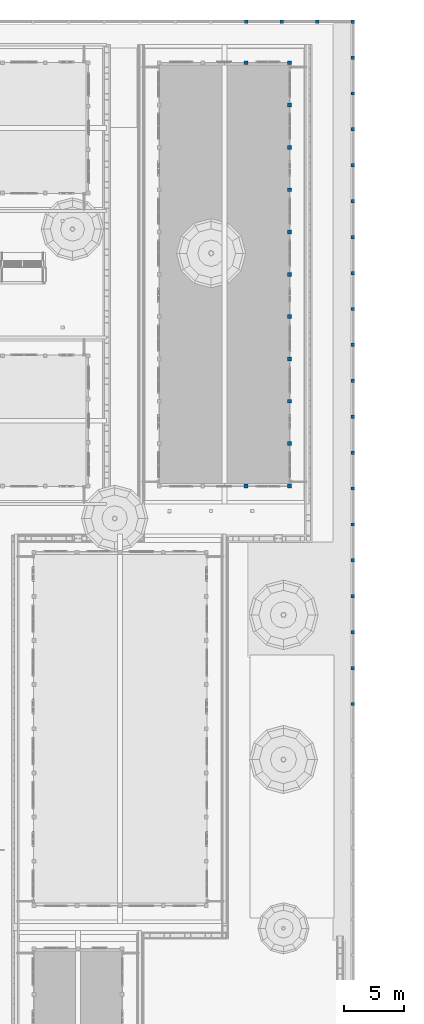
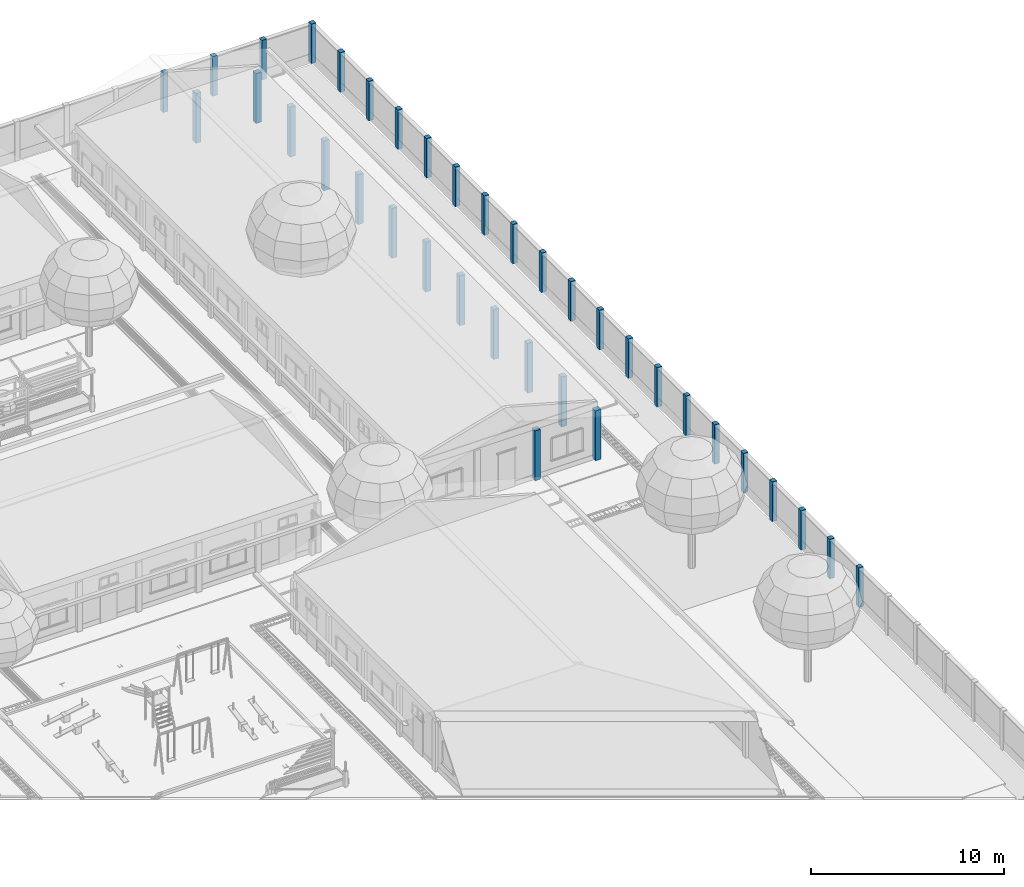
# One storey, part 12 of 166: 39 columns.
"""IFC2X3 building model written with IfcOpenShell, lengths in metres."""

from ifc_helpers import new_model, si_unit, origin, origin_with_axes, place, context, subcontext, project, spatial, faceted_brep, element, save


model = new_model("IFC2X3")

# Units and contexts
model_context = context("Model", 3, precision=1e-05, world=origin_with_axes())
body_context = subcontext(model_context, "Body", "Model", "MODEL_VIEW")
ifc_project = project(units=[si_unit("LENGTHUNIT", "METRE"), si_unit("AREAUNIT", "SQUARE_METRE"), si_unit("VOLUMEUNIT", "CUBIC_METRE"), si_unit("PLANEANGLEUNIT", "RADIAN")], contexts=[model_context])

# Site, building, storey
site_placement = place(None, origin_with_axes())
site = spatial("IfcSite", under=ifc_project, at=site_placement, Name="Predio Los Mangos - Morales, San Martín", CompositionType="ELEMENT")
building_placement = place(site_placement, origin())
building = spatial("IfcBuilding", under=site, at=building_placement, Name="Hogar de Refugio Temporal", CompositionType="ELEMENT")
storey_placement = place(building_placement, origin())
storey = spatial("IfcBuildingStorey", under=building, at=storey_placement, Name="NIVEL 1 (NPT +0.00)", CompositionType="ELEMENT", Elevation=0.0)

# Columns
column_1_placement = place(storey_placement, origin())
element("IfcColumn", 1, at=column_1_placement, inside=storey, Name="E-07_col", ObjectType="Columna", context=body_context, shape_type="Brep", body=[
    faceted_brep([(62.74, 92.54, 0.15), (62.74, 92.86, 0.15), (63.06, 92.86, 0.15), (63.06, 92.54, 0.15), (62.74, 92.54, 3.3), (63.06, 92.54, 3.3), (63.06, 92.86, 3.3), (62.74, 92.86, 3.3)], [[[0, 1, 2, 3]], [[4, 5, 6, 7]], [[0, 3, 5, 4]], [[3, 2, 6, 5]], [[2, 1, 7, 6]], [[1, 0, 4, 7]]]),
])
column_2_placement = place(storey_placement, origin())
element("IfcColumn", 2, at=column_2_placement, inside=storey, Name="E-07_col", ObjectType="Columna", context=body_context, shape_type="Brep", body=[
    faceted_brep([(66.34, 92.54, 0.15), (66.34, 92.86, 0.15), (66.66, 92.86, 0.15), (66.66, 92.54, 0.15), (66.34, 92.54, 3.3), (66.66, 92.54, 3.3), (66.66, 92.86, 3.3), (66.34, 92.86, 3.3)], [[[0, 1, 2, 3]], [[4, 5, 6, 7]], [[0, 3, 5, 4]], [[3, 2, 6, 5]], [[2, 1, 7, 6]], [[1, 0, 4, 7]]]),
])
column_3_placement = place(storey_placement, origin())
element("IfcColumn", 3, at=column_3_placement, inside=storey, Name="E-07_col", ObjectType="Columna", context=body_context, shape_type="Brep", body=[
    faceted_brep([(62.74, 127.64, 0.15), (62.74, 127.96, 0.15), (63.06, 127.96, 0.15), (63.06, 127.64, 0.15), (62.74, 127.64, 3.3), (63.06, 127.64, 3.3), (63.06, 127.96, 3.3), (62.74, 127.96, 3.3)], [[[0, 1, 2, 3]], [[4, 5, 6, 7]], [[0, 3, 5, 4]], [[3, 2, 6, 5]], [[2, 1, 7, 6]], [[1, 0, 4, 7]]]),
])
column_4_placement = place(storey_placement, origin())
element("IfcColumn", 4, at=column_4_placement, inside=storey, Name="E-07_col", ObjectType="Columna", context=body_context, shape_type="Brep", body=[
    faceted_brep([(66.34, 127.64, 0.15), (66.34, 127.96, 0.15), (66.66, 127.96, 0.15), (66.66, 127.64, 0.15), (66.34, 127.64, 3.3), (66.66, 127.64, 3.3), (66.66, 127.96, 3.3), (66.34, 127.96, 3.3)], [[[0, 1, 2, 3]], [[4, 5, 6, 7]], [[0, 3, 5, 4]], [[3, 2, 6, 5]], [[2, 1, 7, 6]], [[1, 0, 4, 7]]]),
])
column_5_placement = place(storey_placement, origin())
element("IfcColumn", 5, at=column_5_placement, inside=storey, Name="E-07_col", ObjectType="Columna", context=body_context, shape_type="Brep", body=[
    faceted_brep([(66.34, 92.54, 0.15), (66.34, 92.86, 0.15), (66.66, 92.86, 0.15), (66.66, 92.54, 0.15), (66.34, 92.54, 3.3), (66.66, 92.54, 3.3), (66.66, 92.86, 3.3), (66.34, 92.86, 3.3)], [[[0, 1, 2, 3]], [[4, 5, 6, 7]], [[0, 3, 5, 4]], [[3, 2, 6, 5]], [[2, 1, 7, 6]], [[1, 0, 4, 7]]]),
])
column_6_placement = place(storey_placement, origin())
element("IfcColumn", 6, at=column_6_placement, inside=storey, Name="E-07_col", ObjectType="Columna", context=body_context, shape_type="Brep", body=[
    faceted_brep([(66.34, 96.05, 0.15), (66.34, 96.37, 0.15), (66.66, 96.37, 0.15), (66.66, 96.05, 0.15), (66.34, 96.05, 3.3), (66.66, 96.05, 3.3), (66.66, 96.37, 3.3), (66.34, 96.37, 3.3)], [[[0, 1, 2, 3]], [[4, 5, 6, 7]], [[0, 3, 5, 4]], [[3, 2, 6, 5]], [[2, 1, 7, 6]], [[1, 0, 4, 7]]]),
])
column_7_placement = place(storey_placement, origin())
element("IfcColumn", 7, at=column_7_placement, inside=storey, Name="E-07_col", ObjectType="Columna", context=body_context, shape_type="Brep", body=[
    faceted_brep([(66.34, 99.56, 0.15), (66.34, 99.88, 0.15), (66.66, 99.88, 0.15), (66.66, 99.56, 0.15), (66.34, 99.56, 3.3), (66.66, 99.56, 3.3), (66.66, 99.88, 3.3), (66.34, 99.88, 3.3)], [[[0, 1, 2, 3]], [[4, 5, 6, 7]], [[0, 3, 5, 4]], [[3, 2, 6, 5]], [[2, 1, 7, 6]], [[1, 0, 4, 7]]]),
])
column_8_placement = place(storey_placement, origin())
element("IfcColumn", 8, at=column_8_placement, inside=storey, Name="E-07_col", ObjectType="Columna", context=body_context, shape_type="Brep", body=[
    faceted_brep([(66.34, 103.07, 0.15), (66.34, 103.39, 0.15), (66.66, 103.39, 0.15), (66.66, 103.07, 0.15), (66.34, 103.07, 3.3), (66.66, 103.07, 3.3), (66.66, 103.39, 3.3), (66.34, 103.39, 3.3)], [[[0, 1, 2, 3]], [[4, 5, 6, 7]], [[0, 3, 5, 4]], [[3, 2, 6, 5]], [[2, 1, 7, 6]], [[1, 0, 4, 7]]]),
])
column_9_placement = place(storey_placement, origin())
element("IfcColumn", 9, at=column_9_placement, inside=storey, Name="E-07_col", ObjectType="Columna", context=body_context, shape_type="Brep", body=[
    faceted_brep([(66.34, 106.58, 0.15), (66.34, 106.9, 0.15), (66.66, 106.9, 0.15), (66.66, 106.58, 0.15), (66.34, 106.58, 3.3), (66.66, 106.58, 3.3), (66.66, 106.9, 3.3), (66.34, 106.9, 3.3)], [[[0, 1, 2, 3]], [[4, 5, 6, 7]], [[0, 3, 5, 4]], [[3, 2, 6, 5]], [[2, 1, 7, 6]], [[1, 0, 4, 7]]]),
])
column_10_placement = place(storey_placement, origin())
element("IfcColumn", 10, at=column_10_placement, inside=storey, Name="E-07_col", ObjectType="Columna", context=body_context, shape_type="Brep", body=[
    faceted_brep([(66.34, 110.09, 0.15), (66.34, 110.41, 0.15), (66.66, 110.41, 0.15), (66.66, 110.09, 0.15), (66.34, 110.09, 3.3), (66.66, 110.09, 3.3), (66.66, 110.41, 3.3), (66.34, 110.41, 3.3)], [[[0, 1, 2, 3]], [[4, 5, 6, 7]], [[0, 3, 5, 4]], [[3, 2, 6, 5]], [[2, 1, 7, 6]], [[1, 0, 4, 7]]]),
])
column_11_placement = place(storey_placement, origin())
element("IfcColumn", 11, at=column_11_placement, inside=storey, Name="E-07_col", ObjectType="Columna", context=body_context, shape_type="Brep", body=[
    faceted_brep([(66.34, 113.6, 0.15), (66.34, 113.92, 0.15), (66.66, 113.92, 0.15), (66.66, 113.6, 0.15), (66.34, 113.6, 3.3), (66.66, 113.6, 3.3), (66.66, 113.92, 3.3), (66.34, 113.92, 3.3)], [[[0, 1, 2, 3]], [[4, 5, 6, 7]], [[0, 3, 5, 4]], [[3, 2, 6, 5]], [[2, 1, 7, 6]], [[1, 0, 4, 7]]]),
])
column_12_placement = place(storey_placement, origin())
element("IfcColumn", 12, at=column_12_placement, inside=storey, Name="E-07_col", ObjectType="Columna", context=body_context, shape_type="Brep", body=[
    faceted_brep([(66.34, 117.11, 0.15), (66.34, 117.43, 0.15), (66.66, 117.43, 0.15), (66.66, 117.11, 0.15), (66.34, 117.11, 3.3), (66.66, 117.11, 3.3), (66.66, 117.43, 3.3), (66.34, 117.43, 3.3)], [[[0, 1, 2, 3]], [[4, 5, 6, 7]], [[0, 3, 5, 4]], [[3, 2, 6, 5]], [[2, 1, 7, 6]], [[1, 0, 4, 7]]]),
])
column_13_placement = place(storey_placement, origin())
element("IfcColumn", 13, at=column_13_placement, inside=storey, Name="E-07_col", ObjectType="Columna", context=body_context, shape_type="Brep", body=[
    faceted_brep([(66.34, 120.62, 0.15), (66.34, 120.94, 0.15), (66.66, 120.94, 0.15), (66.66, 120.62, 0.15), (66.34, 120.62, 3.3), (66.66, 120.62, 3.3), (66.66, 120.94, 3.3), (66.34, 120.94, 3.3)], [[[0, 1, 2, 3]], [[4, 5, 6, 7]], [[0, 3, 5, 4]], [[3, 2, 6, 5]], [[2, 1, 7, 6]], [[1, 0, 4, 7]]]),
])
column_14_placement = place(storey_placement, origin())
element("IfcColumn", 14, at=column_14_placement, inside=storey, Name="E-07_col", ObjectType="Columna", context=body_context, shape_type="Brep", body=[
    faceted_brep([(66.34, 124.13, 0.15), (66.34, 124.45, 0.15), (66.66, 124.45, 0.15), (66.66, 124.13, 0.15), (66.34, 124.13, 3.3), (66.66, 124.13, 3.3), (66.66, 124.45, 3.3), (66.34, 124.45, 3.3)], [[[0, 1, 2, 3]], [[4, 5, 6, 7]], [[0, 3, 5, 4]], [[3, 2, 6, 5]], [[2, 1, 7, 6]], [[1, 0, 4, 7]]]),
])
column_15_placement = place(storey_placement, origin())
element("IfcColumn", 15, at=column_15_placement, inside=storey, Name="E-07_col", ObjectType="Columna", context=body_context, shape_type="Brep", body=[
    faceted_brep([(66.34, 127.64, 0.15), (66.34, 127.96, 0.15), (66.66, 127.96, 0.15), (66.66, 127.64, 0.15), (66.34, 127.64, 3.3), (66.66, 127.64, 3.3), (66.66, 127.96, 3.3), (66.34, 127.96, 3.3)], [[[0, 1, 2, 3]], [[4, 5, 6, 7]], [[0, 3, 5, 4]], [[3, 2, 6, 5]], [[2, 1, 7, 6]], [[1, 0, 4, 7]]]),
])
column_16_placement = place(storey_placement, origin())
element("IfcColumn", 16, at=column_16_placement, inside=storey, Name="columna_cerco", ObjectType="Columna", context=body_context, shape_type="Brep", body=[
    faceted_brep([(71.9, 74.465, 0.0), (71.62, 74.465, 0.0), (71.62, 74.745, 0.0), (71.9, 74.745, 0.0), (71.9, 74.465, 2.5), (71.9, 74.745, 2.5), (71.62, 74.745, 2.5), (71.62, 74.465, 2.5)], [[[0, 1, 2, 3]], [[4, 5, 6, 7]], [[0, 3, 5, 4]], [[3, 2, 6, 5]], [[2, 1, 7, 6]], [[1, 0, 4, 7]]]),
])
column_17_placement = place(storey_placement, origin())
element("IfcColumn", 17, at=column_17_placement, inside=storey, Name="columna_cerco", ObjectType="Columna", context=body_context, shape_type="Brep", body=[
    faceted_brep([(71.9, 77.4442, 0.0), (71.62, 77.4442, 0.0), (71.62, 77.7242, 0.0), (71.9, 77.7242, 0.0), (71.9, 77.4442, 2.5), (71.9, 77.7242, 2.5), (71.62, 77.7242, 2.5), (71.62, 77.4442, 2.5)], [[[0, 1, 2, 3]], [[4, 5, 6, 7]], [[0, 3, 5, 4]], [[3, 2, 6, 5]], [[2, 1, 7, 6]], [[1, 0, 4, 7]]]),
])
column_18_placement = place(storey_placement, origin())
element("IfcColumn", 18, at=column_18_placement, inside=storey, Name="columna_cerco", ObjectType="Columna", context=body_context, shape_type="Brep", body=[
    faceted_brep([(71.9, 80.4234, 0.0), (71.62, 80.4234, 0.0), (71.62, 80.7034, 0.0), (71.9, 80.7034, 0.0), (71.9, 80.4234, 2.5), (71.9, 80.7034, 2.5), (71.62, 80.7034, 2.5), (71.62, 80.4234, 2.5)], [[[0, 1, 2, 3]], [[4, 5, 6, 7]], [[0, 3, 5, 4]], [[3, 2, 6, 5]], [[2, 1, 7, 6]], [[1, 0, 4, 7]]]),
])
column_19_placement = place(storey_placement, origin())
element("IfcColumn", 19, at=column_19_placement, inside=storey, Name="columna_cerco", ObjectType="Columna", context=body_context, shape_type="Brep", body=[
    faceted_brep([(71.9, 83.4026, 0.0), (71.62, 83.4026, 0.0), (71.62, 83.6826, 0.0), (71.9, 83.6826, 0.0), (71.9, 83.4026, 2.5), (71.9, 83.6826, 2.5), (71.62, 83.6826, 2.5), (71.62, 83.4026, 2.5)], [[[0, 1, 2, 3]], [[4, 5, 6, 7]], [[0, 3, 5, 4]], [[3, 2, 6, 5]], [[2, 1, 7, 6]], [[1, 0, 4, 7]]]),
])
column_20_placement = place(storey_placement, origin())
element("IfcColumn", 20, at=column_20_placement, inside=storey, Name="columna_cerco", ObjectType="Columna", context=body_context, shape_type="Brep", body=[
    faceted_brep([(71.9, 86.3818, 0.0), (71.62, 86.3818, 0.0), (71.62, 86.6618, 0.0), (71.9, 86.6618, 0.0), (71.9, 86.3818, 2.5), (71.9, 86.6618, 2.5), (71.62, 86.6618, 2.5), (71.62, 86.3818, 2.5)], [[[0, 1, 2, 3]], [[4, 5, 6, 7]], [[0, 3, 5, 4]], [[3, 2, 6, 5]], [[2, 1, 7, 6]], [[1, 0, 4, 7]]]),
])
column_21_placement = place(storey_placement, origin())
element("IfcColumn", 21, at=column_21_placement, inside=storey, Name="columna_cerco", ObjectType="Columna", context=body_context, shape_type="Brep", body=[
    faceted_brep([(71.9, 89.3611, 0.0), (71.62, 89.3611, 0.0), (71.62, 89.6411, 0.0), (71.9, 89.6411, 0.0), (71.9, 89.3611, 2.5), (71.9, 89.6411, 2.5), (71.62, 89.6411, 2.5), (71.62, 89.3611, 2.5)], [[[0, 1, 2, 3]], [[4, 5, 6, 7]], [[0, 3, 5, 4]], [[3, 2, 6, 5]], [[2, 1, 7, 6]], [[1, 0, 4, 7]]]),
])
column_22_placement = place(storey_placement, origin())
element("IfcColumn", 22, at=column_22_placement, inside=storey, Name="columna_cerco", ObjectType="Columna", context=body_context, shape_type="Brep", body=[
    faceted_brep([(71.9, 92.3403, 0.0), (71.62, 92.3403, 0.0), (71.62, 92.6203, 0.0), (71.9, 92.6203, 0.0), (71.9, 92.3403, 2.5), (71.9, 92.6203, 2.5), (71.62, 92.6203, 2.5), (71.62, 92.3403, 2.5)], [[[0, 1, 2, 3]], [[4, 5, 6, 7]], [[0, 3, 5, 4]], [[3, 2, 6, 5]], [[2, 1, 7, 6]], [[1, 0, 4, 7]]]),
])
column_23_placement = place(storey_placement, origin())
element("IfcColumn", 23, at=column_23_placement, inside=storey, Name="columna_cerco", ObjectType="Columna", context=body_context, shape_type="Brep", body=[
    faceted_brep([(71.9, 95.3195, 0.0), (71.62, 95.3195, 0.0), (71.62, 95.5995, 0.0), (71.9, 95.5995, 0.0), (71.9, 95.3195, 2.5), (71.9, 95.5995, 2.5), (71.62, 95.5995, 2.5), (71.62, 95.3195, 2.5)], [[[0, 1, 2, 3]], [[4, 5, 6, 7]], [[0, 3, 5, 4]], [[3, 2, 6, 5]], [[2, 1, 7, 6]], [[1, 0, 4, 7]]]),
])
column_24_placement = place(storey_placement, origin())
element("IfcColumn", 24, at=column_24_placement, inside=storey, Name="columna_cerco", ObjectType="Columna", context=body_context, shape_type="Brep", body=[
    faceted_brep([(71.9, 98.2987, 0.0), (71.62, 98.2987, 0.0), (71.62, 98.5787, 0.0), (71.9, 98.5787, 0.0), (71.9, 98.2987, 2.5), (71.9, 98.5787, 2.5), (71.62, 98.5787, 2.5), (71.62, 98.2987, 2.5)], [[[0, 1, 2, 3]], [[4, 5, 6, 7]], [[0, 3, 5, 4]], [[3, 2, 6, 5]], [[2, 1, 7, 6]], [[1, 0, 4, 7]]]),
])
column_25_placement = place(storey_placement, origin())
element("IfcColumn", 25, at=column_25_placement, inside=storey, Name="columna_cerco", ObjectType="Columna", context=body_context, shape_type="Brep", body=[
    faceted_brep([(71.9, 101.2779, 0.0), (71.62, 101.2779, 0.0), (71.62, 101.5579, 0.0), (71.9, 101.5579, 0.0), (71.9, 101.2779, 2.5), (71.9, 101.5579, 2.5), (71.62, 101.5579, 2.5), (71.62, 101.2779, 2.5)], [[[0, 1, 2, 3]], [[4, 5, 6, 7]], [[0, 3, 5, 4]], [[3, 2, 6, 5]], [[2, 1, 7, 6]], [[1, 0, 4, 7]]]),
])
column_26_placement = place(storey_placement, origin())
element("IfcColumn", 26, at=column_26_placement, inside=storey, Name="columna_cerco", ObjectType="Columna", context=body_context, shape_type="Brep", body=[
    faceted_brep([(71.9, 104.2571, 0.0), (71.62, 104.2571, 0.0), (71.62, 104.5371, 0.0), (71.9, 104.5371, 0.0), (71.9, 104.2571, 2.5), (71.9, 104.5371, 2.5), (71.62, 104.5371, 2.5), (71.62, 104.2571, 2.5)], [[[0, 1, 2, 3]], [[4, 5, 6, 7]], [[0, 3, 5, 4]], [[3, 2, 6, 5]], [[2, 1, 7, 6]], [[1, 0, 4, 7]]]),
])
column_27_placement = place(storey_placement, origin())
element("IfcColumn", 27, at=column_27_placement, inside=storey, Name="columna_cerco", ObjectType="Columna", context=body_context, shape_type="Brep", body=[
    faceted_brep([(71.9, 107.2363, 0.0), (71.62, 107.2363, 0.0), (71.62, 107.5163, 0.0), (71.9, 107.5163, 0.0), (71.9, 107.2363, 2.5), (71.9, 107.5163, 2.5), (71.62, 107.5163, 2.5), (71.62, 107.2363, 2.5)], [[[0, 1, 2, 3]], [[4, 5, 6, 7]], [[0, 3, 5, 4]], [[3, 2, 6, 5]], [[2, 1, 7, 6]], [[1, 0, 4, 7]]]),
])
column_28_placement = place(storey_placement, origin())
element("IfcColumn", 28, at=column_28_placement, inside=storey, Name="columna_cerco", ObjectType="Columna", context=body_context, shape_type="Brep", body=[
    faceted_brep([(71.9, 110.2155, 0.0), (71.62, 110.2155, 0.0), (71.62, 110.4955, 0.0), (71.9, 110.4955, 0.0), (71.9, 110.2155, 2.5), (71.9, 110.4955, 2.5), (71.62, 110.4955, 2.5), (71.62, 110.2155, 2.5)], [[[0, 1, 2, 3]], [[4, 5, 6, 7]], [[0, 3, 5, 4]], [[3, 2, 6, 5]], [[2, 1, 7, 6]], [[1, 0, 4, 7]]]),
])
column_29_placement = place(storey_placement, origin())
element("IfcColumn", 29, at=column_29_placement, inside=storey, Name="columna_cerco", ObjectType="Columna", context=body_context, shape_type="Brep", body=[
    faceted_brep([(71.9, 113.1947, 0.0), (71.62, 113.1947, 0.0), (71.62, 113.4747, 0.0), (71.9, 113.4747, 0.0), (71.9, 113.1947, 2.5), (71.9, 113.4747, 2.5), (71.62, 113.4747, 2.5), (71.62, 113.1947, 2.5)], [[[0, 1, 2, 3]], [[4, 5, 6, 7]], [[0, 3, 5, 4]], [[3, 2, 6, 5]], [[2, 1, 7, 6]], [[1, 0, 4, 7]]]),
])
column_30_placement = place(storey_placement, origin())
element("IfcColumn", 30, at=column_30_placement, inside=storey, Name="columna_cerco", ObjectType="Columna", context=body_context, shape_type="Brep", body=[
    faceted_brep([(71.9, 116.174, 0.0), (71.62, 116.174, 0.0), (71.62, 116.4539, 0.0), (71.9, 116.4539, 0.0), (71.9, 116.174, 2.5), (71.9, 116.4539, 2.5), (71.62, 116.4539, 2.5), (71.62, 116.174, 2.5)], [[[0, 1, 2, 3]], [[4, 5, 6, 7]], [[0, 3, 5, 4]], [[3, 2, 6, 5]], [[2, 1, 7, 6]], [[1, 0, 4, 7]]]),
])
column_31_placement = place(storey_placement, origin())
element("IfcColumn", 31, at=column_31_placement, inside=storey, Name="columna_cerco", ObjectType="Columna", context=body_context, shape_type="Brep", body=[
    faceted_brep([(71.9, 119.1532, 0.0), (71.62, 119.1532, 0.0), (71.62, 119.4332, 0.0), (71.9, 119.4332, 0.0), (71.9, 119.1532, 2.5), (71.9, 119.4332, 2.5), (71.62, 119.4332, 2.5), (71.62, 119.1532, 2.5)], [[[0, 1, 2, 3]], [[4, 5, 6, 7]], [[0, 3, 5, 4]], [[3, 2, 6, 5]], [[2, 1, 7, 6]], [[1, 0, 4, 7]]]),
])
column_32_placement = place(storey_placement, origin())
element("IfcColumn", 32, at=column_32_placement, inside=storey, Name="columna_cerco", ObjectType="Columna", context=body_context, shape_type="Brep", body=[
    faceted_brep([(71.9, 122.1324, 0.0), (71.62, 122.1324, 0.0), (71.62, 122.4124, 0.0), (71.9, 122.4124, 0.0), (71.9, 122.1324, 2.5), (71.9, 122.4124, 2.5), (71.62, 122.4124, 2.5), (71.62, 122.1324, 2.5)], [[[0, 1, 2, 3]], [[4, 5, 6, 7]], [[0, 3, 5, 4]], [[3, 2, 6, 5]], [[2, 1, 7, 6]], [[1, 0, 4, 7]]]),
])
column_33_placement = place(storey_placement, origin())
element("IfcColumn", 33, at=column_33_placement, inside=storey, Name="columna_cerco", ObjectType="Columna", context=body_context, shape_type="Brep", body=[
    faceted_brep([(71.9, 125.1116, 0.0), (71.62, 125.1116, 0.0), (71.62, 125.3916, 0.0), (71.9, 125.3916, 0.0), (71.9, 125.1116, 2.5), (71.9, 125.3916, 2.5), (71.62, 125.3916, 2.5), (71.62, 125.1116, 2.5)], [[[0, 1, 2, 3]], [[4, 5, 6, 7]], [[0, 3, 5, 4]], [[3, 2, 6, 5]], [[2, 1, 7, 6]], [[1, 0, 4, 7]]]),
])
column_34_placement = place(storey_placement, origin())
element("IfcColumn", 34, at=column_34_placement, inside=storey, Name="columna_cerco", ObjectType="Columna", context=body_context, shape_type="Brep", body=[
    faceted_brep([(71.9, 128.0908, 0.0), (71.62, 128.0908, 0.0), (71.62, 128.3708, 0.0), (71.9, 128.3708, 0.0), (71.9, 128.0908, 2.5), (71.9, 128.3708, 2.5), (71.62, 128.3708, 2.5), (71.62, 128.0908, 2.5)], [[[0, 1, 2, 3]], [[4, 5, 6, 7]], [[0, 3, 5, 4]], [[3, 2, 6, 5]], [[2, 1, 7, 6]], [[1, 0, 4, 7]]]),
])
column_35_placement = place(storey_placement, origin())
element("IfcColumn", 35, at=column_35_placement, inside=storey, Name="columna_cerco", ObjectType="Columna", context=body_context, shape_type="Brep", body=[
    faceted_brep([(71.9, 131.07, 0.0), (71.62, 131.07, 0.0), (71.62, 131.35, 0.0), (71.9, 131.35, 0.0), (71.9, 131.07, 2.5), (71.9, 131.35, 2.5), (71.62, 131.35, 2.5), (71.62, 131.07, 2.5)], [[[0, 1, 2, 3]], [[4, 5, 6, 7]], [[0, 3, 5, 4]], [[3, 2, 6, 5]], [[2, 1, 7, 6]], [[1, 0, 4, 7]]]),
])
column_36_placement = place(storey_placement, origin())
element("IfcColumn", 36, at=column_36_placement, inside=storey, Name="columna_cerco", ObjectType="Columna", context=body_context, shape_type="Brep", body=[
    faceted_brep([(71.9, 131.35, 0.0), (71.9, 131.07, 0.0), (71.62, 131.07, 0.0), (71.62, 131.35, 0.0), (71.9, 131.35, 2.5), (71.62, 131.35, 2.5), (71.62, 131.07, 2.5), (71.9, 131.07, 2.5)], [[[0, 1, 2, 3]], [[4, 5, 6, 7]], [[0, 3, 5, 4]], [[3, 2, 6, 5]], [[2, 1, 7, 6]], [[1, 0, 4, 7]]]),
])
column_37_placement = place(storey_placement, origin())
element("IfcColumn", 37, at=column_37_placement, inside=storey, Name="columna_cerco", ObjectType="Columna", context=body_context, shape_type="Brep", body=[
    faceted_brep([(68.9538, 131.35, 0.0), (68.9538, 131.07, 0.0), (68.6738, 131.07, 0.0), (68.6738, 131.35, 0.0), (68.9538, 131.35, 2.5), (68.6738, 131.35, 2.5), (68.6738, 131.07, 2.5), (68.9538, 131.07, 2.5)], [[[0, 1, 2, 3]], [[4, 5, 6, 7]], [[0, 3, 5, 4]], [[3, 2, 6, 5]], [[2, 1, 7, 6]], [[1, 0, 4, 7]]]),
])
column_38_placement = place(storey_placement, origin())
element("IfcColumn", 38, at=column_38_placement, inside=storey, Name="columna_cerco", ObjectType="Columna", context=body_context, shape_type="Brep", body=[
    faceted_brep([(66.0075, 131.35, 0.0), (66.0075, 131.07, 0.0), (65.7275, 131.07, 0.0), (65.7275, 131.35, 0.0), (66.0075, 131.35, 2.5), (65.7275, 131.35, 2.5), (65.7275, 131.07, 2.5), (66.0075, 131.07, 2.5)], [[[0, 1, 2, 3]], [[4, 5, 6, 7]], [[0, 3, 5, 4]], [[3, 2, 6, 5]], [[2, 1, 7, 6]], [[1, 0, 4, 7]]]),
])
column_39_placement = place(storey_placement, origin())
element("IfcColumn", 39, at=column_39_placement, inside=storey, Name="columna_cerco", ObjectType="Columna", context=body_context, shape_type="Brep", body=[
    faceted_brep([(63.0612, 131.35, 0.0), (63.0612, 131.07, 0.0), (62.7812, 131.07, 0.0), (62.7812, 131.35, 0.0), (63.0612, 131.35, 2.5), (62.7812, 131.35, 2.5), (62.7812, 131.07, 2.5), (63.0612, 131.07, 2.5)], [[[0, 1, 2, 3]], [[4, 5, 6, 7]], [[0, 3, 5, 4]], [[3, 2, 6, 5]], [[2, 1, 7, 6]], [[1, 0, 4, 7]]]),
])

save(model, "model.ifc")
